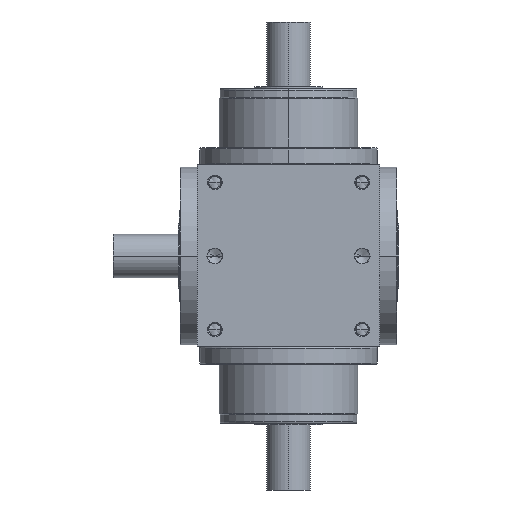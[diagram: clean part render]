
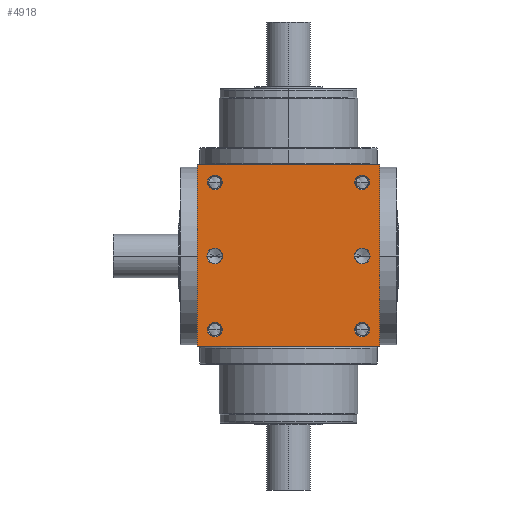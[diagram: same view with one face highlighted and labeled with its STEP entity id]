
A CAD part, front view. The second image highlights one B-rep face of the part: STEP entity #4918.
In plain terms, the highlighted planar face has unit normal (0, -1, 0).
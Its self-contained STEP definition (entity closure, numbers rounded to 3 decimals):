
#5=DIRECTION('',(1.,0.,0.));
#6=VECTOR('',#5,210.);
#7=CARTESIAN_POINT('',(-105.,-105.,-105.));
#8=LINE('',#7,#6);
#165=DIRECTION('',(0.,0.,1.));
#166=VECTOR('',#165,210.);
#167=CARTESIAN_POINT('',(105.,-105.,-105.));
#168=LINE('',#167,#166);
#219=DIRECTION('',(0.,0.,1.));
#220=VECTOR('',#219,210.);
#221=CARTESIAN_POINT('',(-105.,-105.,-105.));
#222=LINE('',#221,#220);
#223=CARTESIAN_POINT('',(85.,-104.999,85.));
#224=DIRECTION('',(0.,1.,0.));
#225=DIRECTION('',(-1.,0.,0.));
#226=AXIS2_PLACEMENT_3D('',#223,#224,#225);
#228=CARTESIAN_POINT('',(85.,-104.999,85.));
#229=DIRECTION('',(0.,1.,0.));
#230=DIRECTION('',(1.,0.,0.));
#231=AXIS2_PLACEMENT_3D('',#228,#229,#230);
#233=CARTESIAN_POINT('',(-85.,-104.999,85.));
#234=DIRECTION('',(0.,1.,0.));
#235=DIRECTION('',(-1.,0.,0.));
#236=AXIS2_PLACEMENT_3D('',#233,#234,#235);
#238=CARTESIAN_POINT('',(-85.,-104.999,85.));
#239=DIRECTION('',(0.,1.,0.));
#240=DIRECTION('',(1.,0.,0.));
#241=AXIS2_PLACEMENT_3D('',#238,#239,#240);
#243=CARTESIAN_POINT('',(85.,-104.999,-85.));
#244=DIRECTION('',(0.,1.,0.));
#245=DIRECTION('',(-1.,0.,0.));
#246=AXIS2_PLACEMENT_3D('',#243,#244,#245);
#248=CARTESIAN_POINT('',(85.,-104.999,-85.));
#249=DIRECTION('',(0.,1.,0.));
#250=DIRECTION('',(1.,0.,0.));
#251=AXIS2_PLACEMENT_3D('',#248,#249,#250);
#253=CARTESIAN_POINT('',(-85.,-104.999,-85.));
#254=DIRECTION('',(0.,1.,0.));
#255=DIRECTION('',(-1.,0.,0.));
#256=AXIS2_PLACEMENT_3D('',#253,#254,#255);
#258=CARTESIAN_POINT('',(-85.,-104.999,-85.));
#259=DIRECTION('',(0.,1.,0.));
#260=DIRECTION('',(1.,0.,0.));
#261=AXIS2_PLACEMENT_3D('',#258,#259,#260);
#263=CARTESIAN_POINT('',(-85.,-105.,0.));
#264=DIRECTION('',(0.,1.,0.));
#265=DIRECTION('',(1.,0.,0.));
#266=AXIS2_PLACEMENT_3D('',#263,#264,#265);
#268=CARTESIAN_POINT('',(-85.,-105.,0.));
#269=DIRECTION('',(0.,1.,0.));
#270=DIRECTION('',(-1.,0.,0.));
#271=AXIS2_PLACEMENT_3D('',#268,#269,#270);
#273=CARTESIAN_POINT('',(85.,-105.,0.));
#274=DIRECTION('',(0.,1.,0.));
#275=DIRECTION('',(1.,0.,0.));
#276=AXIS2_PLACEMENT_3D('',#273,#274,#275);
#278=CARTESIAN_POINT('',(85.,-105.,0.));
#279=DIRECTION('',(0.,1.,0.));
#280=DIRECTION('',(-1.,0.,0.));
#281=AXIS2_PLACEMENT_3D('',#278,#279,#280);
#295=DIRECTION('',(1.,0.,0.));
#296=VECTOR('',#295,210.);
#297=CARTESIAN_POINT('',(-105.,-105.,105.));
#298=LINE('',#297,#296);
#3940=CARTESIAN_POINT('',(-105.,-105.,-105.));
#3942=VERTEX_POINT('',#3940);
#3943=CARTESIAN_POINT('',(105.,-105.,-105.));
#3944=VERTEX_POINT('',#3943);
#3948=CARTESIAN_POINT('',(-105.,-105.,105.));
#3950=VERTEX_POINT('',#3948);
#3951=CARTESIAN_POINT('',(105.,-105.,105.));
#3952=VERTEX_POINT('',#3951);
#4123=CARTESIAN_POINT('',(76.6,-104.999,85.));
#4124=CARTESIAN_POINT('',(93.4,-104.999,85.));
#4125=VERTEX_POINT('',#4123);
#4126=VERTEX_POINT('',#4124);
#4131=CARTESIAN_POINT('',(-93.4,-104.999,85.));
#4132=CARTESIAN_POINT('',(-76.6,-104.999,85.));
#4133=VERTEX_POINT('',#4131);
#4134=VERTEX_POINT('',#4132);
#4139=CARTESIAN_POINT('',(76.6,-104.999,-85.));
#4140=CARTESIAN_POINT('',(93.4,-104.999,-85.));
#4141=VERTEX_POINT('',#4139);
#4142=VERTEX_POINT('',#4140);
#4147=CARTESIAN_POINT('',(-93.4,-104.999,-85.));
#4148=CARTESIAN_POINT('',(-76.6,-104.999,-85.));
#4149=VERTEX_POINT('',#4147);
#4150=VERTEX_POINT('',#4148);
#4489=CARTESIAN_POINT('',(-75.95,-105.,
0.));
#4490=CARTESIAN_POINT('',(-94.05,-105.,
0.));
#4491=VERTEX_POINT('',#4489);
#4492=VERTEX_POINT('',#4490);
#4497=CARTESIAN_POINT('',(94.05,-105.,0.));
#4498=CARTESIAN_POINT('',(75.95,-105.,0.));
#4499=VERTEX_POINT('',#4497);
#4500=VERTEX_POINT('',#4498);
#4870=CARTESIAN_POINT('',(-105.,-105.,-105.));
#4871=DIRECTION('',(0.,-1.,0.));
#4872=DIRECTION('',(1.,0.,0.));
#4873=AXIS2_PLACEMENT_3D('',#4870,#4871,#4872);
#4874=PLANE('',#4873);
#4875=ORIENTED_EDGE('',*,*,#4704,.F.);
#4876=ORIENTED_EDGE('',*,*,#4753,.T.);
#4878=ORIENTED_EDGE('',*,*,#4877,.T.);
#4879=ORIENTED_EDGE('',*,*,#4832,.F.);
#4880=EDGE_LOOP('',(#4875,#4876,#4878,#4879));
#4881=FACE_OUTER_BOUND('',#4880,.F.);
#4883=ORIENTED_EDGE('',*,*,#4882,.F.);
#4885=ORIENTED_EDGE('',*,*,#4884,.F.);
#4886=EDGE_LOOP('',(#4883,#4885));
#4887=FACE_BOUND('',#4886,.F.);
#4889=ORIENTED_EDGE('',*,*,#4888,.F.);
#4891=ORIENTED_EDGE('',*,*,#4890,.F.);
#4892=EDGE_LOOP('',(#4889,#4891));
#4893=FACE_BOUND('',#4892,.F.);
#4895=ORIENTED_EDGE('',*,*,#4894,.F.);
#4897=ORIENTED_EDGE('',*,*,#4896,.F.);
#4898=EDGE_LOOP('',(#4895,#4897));
#4899=FACE_BOUND('',#4898,.F.);
#4901=ORIENTED_EDGE('',*,*,#4900,.F.);
#4903=ORIENTED_EDGE('',*,*,#4902,.F.);
#4904=EDGE_LOOP('',(#4901,#4903));
#4905=FACE_BOUND('',#4904,.F.);
#4907=ORIENTED_EDGE('',*,*,#4906,.F.);
#4909=ORIENTED_EDGE('',*,*,#4908,.F.);
#4910=EDGE_LOOP('',(#4907,#4909));
#4911=FACE_BOUND('',#4910,.F.);
#4913=ORIENTED_EDGE('',*,*,#4912,.F.);
#4915=ORIENTED_EDGE('',*,*,#4914,.F.);
#4916=EDGE_LOOP('',(#4913,#4915));
#4917=FACE_BOUND('',#4916,.F.);
#4918=ADVANCED_FACE('',(#4881,#4887,#4893,#4899,#4905,#4911,#4917),#4874,.T.);
#227=CIRCLE('',#226,8.4);
#232=CIRCLE('',#231,8.4);
#237=CIRCLE('',#236,8.4);
#242=CIRCLE('',#241,8.4);
#247=CIRCLE('',#246,8.4);
#252=CIRCLE('',#251,8.4);
#257=CIRCLE('',#256,8.4);
#262=CIRCLE('',#261,8.4);
#267=CIRCLE('',#266,9.05);
#272=CIRCLE('',#271,9.05);
#277=CIRCLE('',#276,9.05);
#282=CIRCLE('',#281,9.05);
#4704=EDGE_CURVE('',#3942,#3944,#8,.T.);
#4753=EDGE_CURVE('',#3942,#3950,#222,.T.);
#4832=EDGE_CURVE('',#3944,#3952,#168,.T.);
#4877=EDGE_CURVE('',#3950,#3952,#298,.T.);
#4882=EDGE_CURVE('',#4125,#4126,#227,.T.);
#4884=EDGE_CURVE('',#4126,#4125,#232,.T.);
#4888=EDGE_CURVE('',#4133,#4134,#237,.T.);
#4890=EDGE_CURVE('',#4134,#4133,#242,.T.);
#4894=EDGE_CURVE('',#4141,#4142,#247,.T.);
#4896=EDGE_CURVE('',#4142,#4141,#252,.T.);
#4900=EDGE_CURVE('',#4149,#4150,#257,.T.);
#4902=EDGE_CURVE('',#4150,#4149,#262,.T.);
#4906=EDGE_CURVE('',#4491,#4492,#267,.T.);
#4908=EDGE_CURVE('',#4492,#4491,#272,.T.);
#4912=EDGE_CURVE('',#4499,#4500,#277,.T.);
#4914=EDGE_CURVE('',#4500,#4499,#282,.T.);
